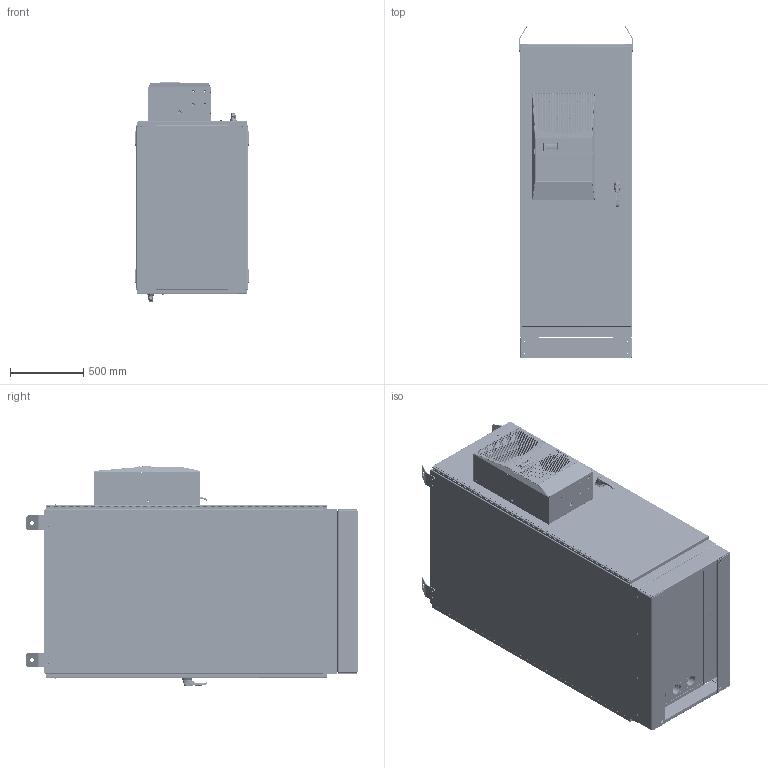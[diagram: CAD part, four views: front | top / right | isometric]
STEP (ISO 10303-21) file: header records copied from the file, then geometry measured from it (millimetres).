
FILE_DESCRIPTION (( 'STEP AP203' ), '1' );
FILE_NAME ('t843044fttxdasa.STEP', '2023-07-13T17:38:46', ( '' ), ( '' ), 'SwSTEP 2.0', 'SolidWorks 2020', '' );
FILE_SCHEMA (( 'CONFIG_CONTROL_DESIGN' ));
Length unit declared in the file: inch
Products named in the file (86): 89048717; 89114548; 89048719; 23418001; 28-6210-00; 20972; 89079789; 99415470_99415470; 87560001_Closed; 89076568; 87929874_87929873; 26274019_26274019; 89114568_89049941; 99404050_99404050; 89114570_89049942; 89114562_87920580; 89114566_89049940; 28-6211-00; 87561705_87561705; 10-1131-08; 89048721; 99404151_PEM CLS-0420-1 ---N; 89114579; 89050084; 89075653; 87402760; 87402763; 89114576_87920594; 87793415_87793415; 87920596; 89114565_87920582; 89114550_84 INCH FIP; 87560108; 87560090; 89114578; 89114567_87920584; 89078973; 89114572_89050096; 30101003; 89114552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
Assembly tree (199 placements, depth 5):
  t843044fttxdasa
    89114573_87920578
      89114566_89049940
        89114565_87920582
        99415470_99415470  x13
        99404050_99404050  x4
        87920592_87920592  x2
        87920598_87920598  x2
        87561705_87561705  x4
        89114564  x3
      89114568_89049941
        89114567_87920584
        99404049_99404049  x8
      89114563_89049939
        89114562_87920580
        99404050_99404050  x2
        99415470_99415470  x13
        87920592_87920592  x2
        87920598_87920598  x2
        87561705_87561705  x4
        89114564  x3
      89114570_89049942
        89114569_87920586
      89114572_89050096  x2
        89114571_89049943
        99404151_PEM CLS-0420-1 ---N
    87578925_87578925  x2
    89114560_89049937
      89114559_89049936
        89114558_87920576
        99404049_99404049  x4
        27301003  x2
      22108007
      87560090
      26274019_26274019
        26273019_26273019
        30101003  x2
        27115001
        22318002
      26274019_26274019
        26273019_26273019
        30101003  x2
        27115001
        22318002
      27115004  x2
      87560001_Closed
        89048719
        89048722
          89048720
          89048721
        89048717
      26123007_26123007 
      89114550_84 INCH FIP
      89114561
      87402762
        87402763
        87402760
        87410157
    87793415_87793415  x2
    89114574_87920588  x2
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Bounding box: 771.55 x 2258.1 x 1493.56 mm (x, y, z)
Volume: 125949357.3 mm3; surface area: 44224013.3 mm2
Topology: 217 solids, 230 shells, 32285 faces, 89661 edges, 58447 vertices
Faces by surface type: plane 16583, cylinder 11393, cone 1856, bspline 1677, torus 662, sphere 114
Entity records: 539082 total; most frequent: CARTESIAN_POINT 152857, ORIENTED_EDGE 78915, DIRECTION 75007, EDGE_CURVE 39478, VERTEX_POINT 25655, AXIS2_PLACEMENT_3D 25246, LINE 24515, VECTOR 24515
